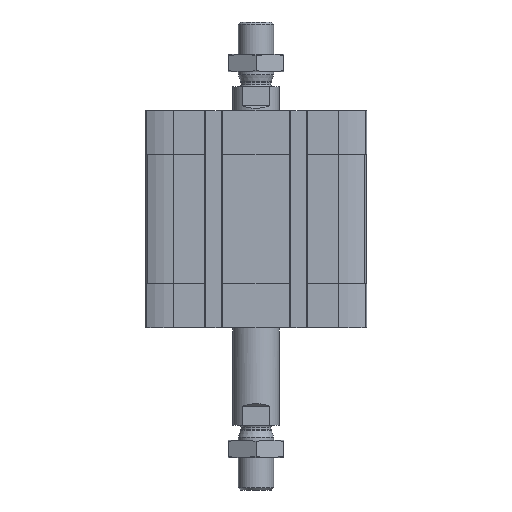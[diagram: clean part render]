
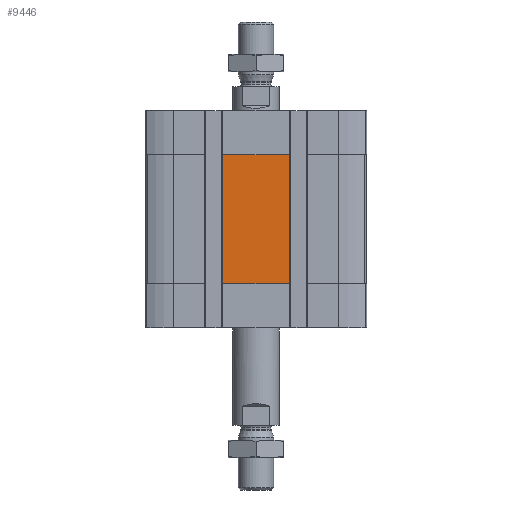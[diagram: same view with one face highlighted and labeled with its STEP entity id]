
A CAD part, front view. The second image highlights one B-rep face of the part: STEP entity #9446.
In plain terms, the highlighted planar face has unit normal (0, -1, 0).
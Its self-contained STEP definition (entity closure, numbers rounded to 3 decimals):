
#15 = ORIENTED_EDGE ( 'NONE', *, *, #12545, .F. ) ;
#182 = AXIS2_PLACEMENT_3D ( 'NONE', #14448, #1111, #12970 ) ;
#592 = VERTEX_POINT ( 'NONE', #14981 ) ;
#745 = CARTESIAN_POINT ( 'NONE',  ( 11.4, -37.5, -59. ) ) ;
#1028 = FACE_OUTER_BOUND ( 'NONE', #6352, .T. ) ;
#1111 = DIRECTION ( 'NONE',  ( 0., -1., 0. ) ) ;
#1843 = VECTOR ( 'NONE', #15389, 1000. ) ;
#3894 = CARTESIAN_POINT ( 'NONE',  ( 11.4, -37.5, -59. ) ) ;
#4431 = VERTEX_POINT ( 'NONE', #3894 ) ;
#4443 = ORIENTED_EDGE ( 'NONE', *, *, #15228, .F. ) ;
#4551 = LINE ( 'NONE', #7252, #13416 ) ;
#4801 = VERTEX_POINT ( 'NONE', #6488 ) ;
#5225 = LINE ( 'NONE', #14743, #11099 ) ;
#5234 = ORIENTED_EDGE ( 'NONE', *, *, #6650, .T. ) ;
#6352 = EDGE_LOOP ( 'NONE', ( #15, #4443, #16431, #5234 ) ) ;
#6387 = VECTOR ( 'NONE', #17191, 1000. ) ;
#6488 = CARTESIAN_POINT ( 'NONE',  ( 11.4, -37.5, -15. ) ) ;
#6650 = EDGE_CURVE ( 'NONE', #4431, #4801, #8671, .T. ) ;
#7252 = CARTESIAN_POINT ( 'NONE',  ( -11.4, -37.5, -59. ) ) ;
#7763 = DIRECTION ( 'NONE',  ( 1., 0., 0. ) ) ;
#7860 = CARTESIAN_POINT ( 'NONE',  ( -11.4, -37.5, -15. ) ) ;
#8671 = LINE ( 'NONE', #745, #1843 ) ;
#8811 = VERTEX_POINT ( 'NONE', #10952 ) ;
#9446 = ADVANCED_FACE ( 'NONE', ( #1028 ), #11661, .T. ) ;
#10952 = CARTESIAN_POINT ( 'NONE',  ( -11.4, -37.5, -15. ) ) ;
#11099 = VECTOR ( 'NONE', #7763, 1000. ) ;
#11661 = PLANE ( 'NONE',  #182 ) ;
#12545 = EDGE_CURVE ( 'NONE', #8811, #4801, #13105, .T. ) ;
#12970 = DIRECTION ( 'NONE',  ( 0., 0., -1. ) ) ;
#13105 = LINE ( 'NONE', #7860, #6387 ) ;
#13416 = VECTOR ( 'NONE', #16420, 1000. ) ;
#14448 = CARTESIAN_POINT ( 'NONE',  ( -11.4, -37.5, -59. ) ) ;
#14743 = CARTESIAN_POINT ( 'NONE',  ( -11.4, -37.5, -59. ) ) ;
#14981 = CARTESIAN_POINT ( 'NONE',  ( -11.4, -37.5, -59. ) ) ;
#15228 = EDGE_CURVE ( 'NONE', #592, #8811, #4551, .T. ) ;
#15389 = DIRECTION ( 'NONE',  ( 0., 0., 1. ) ) ;
#16420 = DIRECTION ( 'NONE',  ( 0., 0., 1. ) ) ;
#16431 = ORIENTED_EDGE ( 'NONE', *, *, #16596, .T. ) ;
#16596 = EDGE_CURVE ( 'NONE', #592, #4431, #5225, .T. ) ;
#17191 = DIRECTION ( 'NONE',  ( 1., 0., 0. ) ) ;
